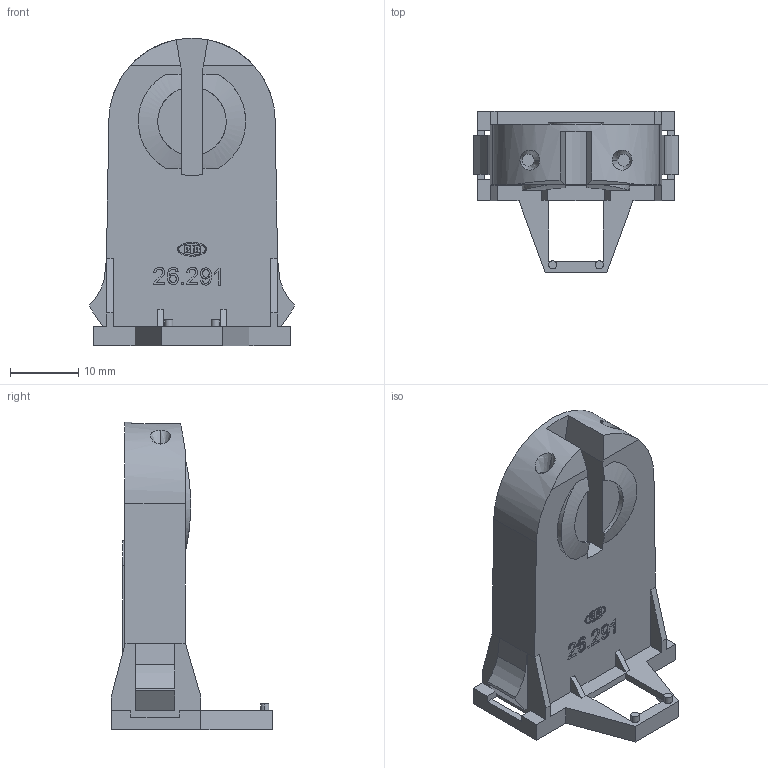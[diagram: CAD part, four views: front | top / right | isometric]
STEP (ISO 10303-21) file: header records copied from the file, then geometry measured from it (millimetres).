
FILE_DESCRIPTION(('CAx-IF Rec.Pracs.---Model Styling and Organization---1.2---2011-12-15','CAx-IF Rec.Pracs.---Geometric and Assembly Validation Properties---4.1---2014-06-16','CAx-IF Rec.Pracs.---PMI Polyline Presentation---2.0---2013-05-24'),'2;1');
FILE_NAME('005YM0VY03.stp','2018-06-11T11:45:06+02:00',(''),(''),'STEP Interface 4.1 Sp1 by CT CoreTechnologie','3D_Evolution4.1 Sp1 by CT CoreTechnologie','');
FILE_SCHEMA(('AUTOMOTIVE_DESIGN { 1 0 10303 214 1 1 1 1 }'));
Length unit declared in the file: millimetre
Products named in the file (1): 005YM0VY03
Bounding box: 30 x 23.6 x 44.95 mm (x, y, z)
Volume: 8659 mm3; surface area: 4843.9 mm2
Topology: 1 solids, 1 shells, 270 faces, 735 edges, 485 vertices
Faces by surface type: plane 168, cylinder 81, bspline 21
Entity records: 19393 total; most frequent: CARTESIAN_POINT 2681, ORIENTED_EDGE 1470, DIRECTION 1359, PROPERTY_DEFINITION 1298, EDGE_CURVE 735, SHAPE_REPRESENTATION 650, SHAPE_DEFINITION_REPRESENTATION 650, REPRESENTATION 649
